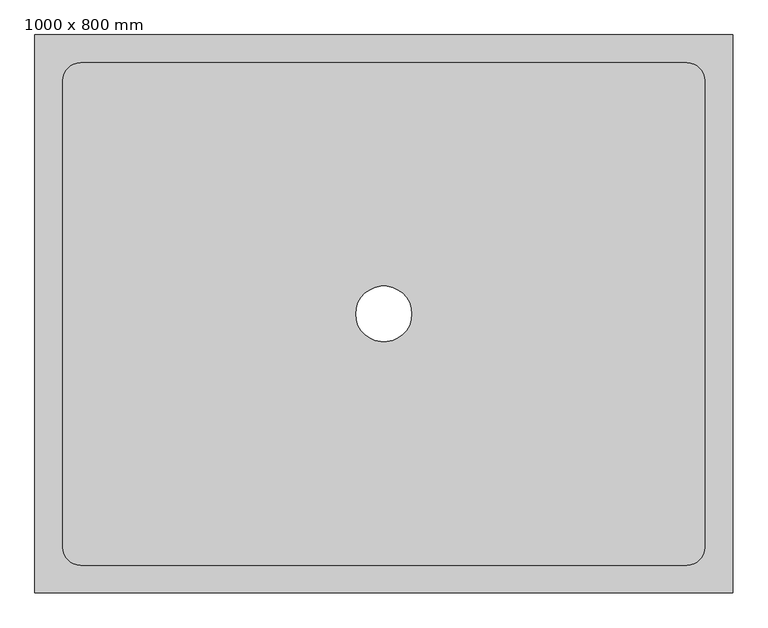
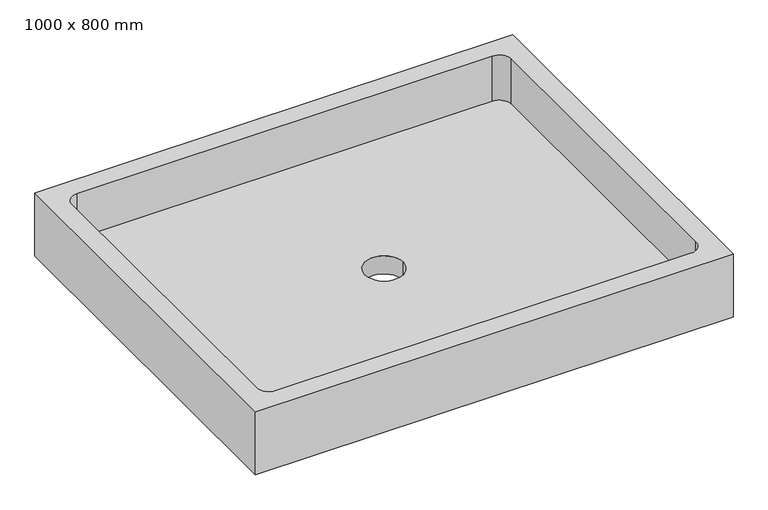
"""IFC4 building model written with IfcOpenShell, lengths in millimetres: flow terminal geometry, Cubeta de ducha - Desagüe centrado : 1000 x 800 mm."""

from ifc_helpers import new_model, si_unit, frame, origin, origin_with_axes, place, context, project, spatial, polyline, circle_curve, source, transform, mapped, element, save
from ifc_brep_helpers import plane_surface, revolved_surface, advanced_brep


def flow_terminal_1000_x_800_mm_dd5a154a(model_context):
    return source(origin(), model_context, "Body", "AdvancedBrep", [
        advanced_brep(
        [(500.0, 400.0, 140.0), (-500.0, 400.0, 140.0), (-500.0, -400.0, 140.0), (500.0, -400.0, 140.0), (460.0, -334.6, 140.0), (434.6, -360.0, 140.0), (-434.6, -360.0, 140.0), (-460.0, -334.6, 140.0), (-460.0, 334.6, 140.0), (-434.6, 360.0, 140.0), (434.6, 360.0, 140.0), (460.0, 334.6, 140.0), (500.0, 400.0, 0.0), (500.0, -400.0, 0.0), (-500.0, -400.0, 0.0), (-500.0, 400.0, 0.0), (-40.0, 0.0, 0.0), (40.0, 0.0, 0.0), (434.6, -360.0, 40.0), (460.0, -334.6, 40.0), (460.0, 334.6, 40.0), (434.6, 360.0, 40.0), (-434.6, 360.0, 40.0), (-460.0, 334.6, 40.0), (-460.0, -334.6, 40.0), (-434.6, -360.0, 40.0), (40.0, 0.0, 40.0), (-40.0, 0.0, 40.0)],
        [
            (0, 1),
            (1, 2),
            (2, 3),
            (3, 0),
            (4, 5, circle_curve(frame((434.6, -334.6, 140.0), z_axis=(0.0, 0.0, -1.0), x_axis=(1.0, 0.0, 0.0)), 25.4)),
            (5, 6),
            (6, 7, circle_curve(frame((-434.6, -334.6, 140.0), z_axis=(0.0, 0.0, -1.0), x_axis=(1.0, 0.0, 0.0)), 25.4)),
            (7, 8),
            (8, 9, circle_curve(frame((-434.6, 334.6, 140.0), z_axis=(0.0, 0.0, -1.0), x_axis=(1.0, 0.0, 0.0)), 25.4)),
            (9, 10),
            (10, 11, circle_curve(frame((434.6, 334.6, 140.0), z_axis=(0.0, 0.0, -1.0), x_axis=(1.0, 0.0, 0.0)), 25.4)),
            (11, 4),
            (12, 13),
            (13, 14),
            (14, 15),
            (15, 12),
            (16, 17, circle_curve(origin_with_axes(), 40.0)),
            (17, 16, circle_curve(origin_with_axes(), 40.0)),
            (0, 12),
            (15, 1),
            (14, 2),
            (13, 3),
            (18, 19, circle_curve(frame((434.6, -334.6, 40.0), z_axis=(0.0, 0.0, 1.0), x_axis=(1.0, 0.0, 0.0)), 25.4)),
            (19, 20),
            (20, 21, circle_curve(frame((434.6, 334.6, 40.0), z_axis=(0.0, 0.0, 1.0), x_axis=(1.0, 0.0, 0.0)), 25.4)),
            (21, 22),
            (22, 23, circle_curve(frame((-434.6, 334.6, 40.0), z_axis=(0.0, 0.0, 1.0), x_axis=(1.0, 0.0, 0.0)), 25.4)),
            (23, 24),
            (24, 25, circle_curve(frame((-434.6, -334.6, 40.0), z_axis=(0.0, 0.0, 1.0), x_axis=(1.0, 0.0, 0.0)), 25.4)),
            (25, 18),
            (26, 27, circle_curve(frame((0.0, 0.0, 40.0), z_axis=(0.0, 0.0, -1.0), x_axis=(1.0, 0.0, 0.0)), 40.0)),
            (27, 26, circle_curve(frame((0.0, 0.0, 40.0), z_axis=(0.0, 0.0, -1.0), x_axis=(1.0, 0.0, 0.0)), 40.0)),
            (18, 5),
            (4, 19),
            (11, 20),
            (10, 21),
            (9, 22),
            (8, 23),
            (7, 24),
            (6, 25),
            (16, 27),
            (26, 17),
        ],
        [
            plane_surface(frame((-500.0, 400.0, 140.0), z_axis=(0.0, 0.0, 1.0), x_axis=(-1.0, 0.0, 0.0))),
            plane_surface(frame((-500.0, 400.0, 0.0), z_axis=(0.0, 0.0, -1.0), x_axis=(1.0, 0.0, 0.0))),
            plane_surface(frame((500.0, 400.0, 140.0), z_axis=(0.0, 1.0, 0.0), x_axis=(0.0, 0.0, -1.0))),
            plane_surface(frame((-500.0, 400.0, 140.0), z_axis=(-1.0, 0.0, 0.0), x_axis=(0.0, 0.0, -1.0))),
            plane_surface(frame((-500.0, -400.0, 140.0), z_axis=(0.0, -1.0, 0.0), x_axis=(0.0, 0.0, -1.0))),
            plane_surface(frame((500.0, -400.0, 140.0), z_axis=(1.0, 0.0, 0.0), x_axis=(0.0, 0.0, -1.0))),
            plane_surface(frame((460.0, -334.6, 40.0), z_axis=(0.0, 0.0, 1.0), x_axis=(0.0, -1.0, 0.0))),
            revolved_surface(polyline([(460.0, -334.6, 140.0), (460.0, -334.6, 40.0)]), (434.6, -334.6, 40.0), (0.0, 0.0, 1.0)),
            plane_surface(frame((460.0, -334.6, 140.0), z_axis=(-1.0, 0.0, 0.0), x_axis=(0.0, 0.0, -1.0))),
            revolved_surface(polyline([(460.0, 334.6, 140.0), (460.0, 334.6, 40.0)]), (434.6, 334.6, 40.0), (0.0, 0.0, 1.0)),
            plane_surface(frame((434.6, 360.0, 140.0), z_axis=(0.0, -1.0, 0.0), x_axis=(0.0, 0.0, -1.0))),
            revolved_surface(polyline([(-409.20000000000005, 334.6, 140.0), (-409.20000000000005, 334.6, 40.0)]), (-434.6, 334.6, 40.0), (0.0, 0.0, 1.0)),
            plane_surface(frame((-460.0, 334.6, 140.0), z_axis=(1.0, 0.0, 0.0), x_axis=(0.0, 0.0, -1.0))),
            revolved_surface(polyline([(-409.20000000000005, -334.6, 140.0), (-409.20000000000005, -334.6, 40.0)]), (-434.6, -334.6, 40.0), (0.0, 0.0, 1.0)),
            plane_surface(frame((-434.6, -360.0, 140.0), z_axis=(0.0, 1.0, 0.0), x_axis=(0.0, 0.0, -1.0))),
            revolved_surface(polyline([(40.0, 0.0, 40.0), (40.0, 0.0, 0.0)]), (0.0, 0.0, 0.0), (0.0, 0.0, 1.0)),
        ],
        [
            (0, [[1, 2, 3, 4], [5, 6, 7, 8, 9, 10, 11, 12]]),
            (1, [[13, 14, 15, 16], [17, 18]]),
            (2, [[-1, 19, -16, 20]]),
            (3, [[-2, -20, -15, 21]]),
            (4, [[-3, -21, -14, 22]]),
            (5, [[-4, -22, -13, -19]]),
            (6, [[23, 24, 25, 26, 27, 28, 29, 30], [31, 32]]),
            (7, [[-23, 33, -5, 34]]),
            (8, [[-24, -34, -12, 35]]),
            (9, [[-25, -35, -11, 36]]),
            (10, [[-26, -36, -10, 37]]),
            (11, [[-27, -37, -9, 38]]),
            (12, [[-28, -38, -8, 39]]),
            (13, [[-29, -39, -7, 40]]),
            (14, [[-30, -40, -6, -33]]),
            (15, [[41, -31, 42, -17]]),
            (15, [[-41, -18, -42, -32]]),
        ],
    ),
    ])


if __name__ == "__main__":
    model = new_model("IFC4")
    model_context = context("Model", 3, world=origin())
    ifc_project = project(units=[si_unit("LENGTHUNIT", "METRE", prefix="MILLI")], contexts=[model_context])
    site = spatial("IfcSite", under=ifc_project)
    building = spatial("IfcBuilding", under=site)
    placement = place(None, origin())
    flow_terminal_1000_x_800_mm_shape = flow_terminal_1000_x_800_mm_dd5a154a(model_context)
    element("IfcFlowTerminal", 1, ObjectType="Cubeta de ducha - Desagüe centrado : 1000 x 800 mm", at=placement, inside=building, context=model_context, shape_type="MappedRepresentation", body=[
        mapped(flow_terminal_1000_x_800_mm_shape, transform((0.0, 0.0, 0.0), x_axis=(1.0, 0.0, 0.0), y_axis=(0.0, 1.0, 0.0), z_axis=(0.0, 0.0, 1.0))),
    ])
    save(model, "model.ifc")
